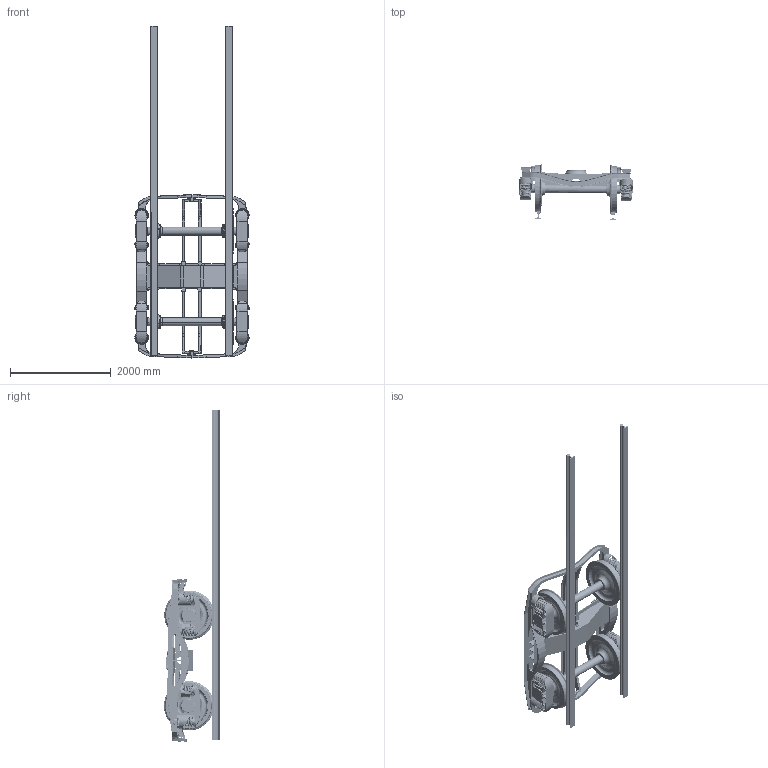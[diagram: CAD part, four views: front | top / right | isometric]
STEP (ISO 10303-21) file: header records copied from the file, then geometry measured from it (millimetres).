
FILE_DESCRIPTION (( 'STEP AP203' ), '1' );
FILE_NAME ('Z³o¿enie1.STEP', '2013-02-03T15:32:17', ( 'Grzegorz' ), ( '' ), 'SwSTEP 2.0', 'SolidWorks 2013', '' );
FILE_SCHEMA (( 'CONFIG_CONTROL_DESIGN' ));
Length unit declared in the file: millimetre
Products named in the file (51): Pod³u¿nica œrodkowa 1-1; Zamkniêcie2-1; Pas górny-1; T³oczek-1; Ko這 monoblokowe Fi920-1; MaŸnica1-1; Blacha-1; Pas górny belki skrêtowej-1; Ostojnica prawa-1; œlizg boczny-1; Zestaw ko³owy monoblokowy Fi920-1; szklanka-1; s³upek2-1; Wzmocnienie-1; Pas dolny-1; Gniazdo skrêtu-1; Korpus górny slizgu-1; Sprê¿yna zewnêtrzna-1; P³ytka-1; 宺骴nik-1; 宺骴nik lewy-1; Wk³adka-1; Œlizg-1; Sprê¿yna wewnêtrzna-1; s³upek-1; Rozpórka-1; Ostojnica lewa-1; Gniazdo skrêtu kpl-1; Wk³adka œlizgu-1; MaŸnica kpl-1; wspornik3-1; Przelotka-1; Czo³ownica-1; Wózek Y25; Szyna Kolejowa S49; Korpus dolny slizgu-1; Usprê¿ynowanie-1; Blacha3-1; wspornik-1; Pas dolny belki skrêtowej-1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
Assembly tree (87 placements, depth 5):
  Z這瞠nie1
    Szyna Kolejowa S49  x2
    Wózek Y25
      Ostojnica prawa-1
        Pas dolny prawy-1
        宺骴nik prawy-1
        Pas górny-1
      Ostojnica lewa-1
        Pas dolny-1
        宺骴nik lewy-1
        Pas górny-1
      Czo³ownica-1  x2
      Pas dolny belki skrêtowej-1
      Zamkniêcie-1  x2
      Zamkniêcie2-1  x2
      Pas górny belki skrêtowej-1
      Wzmocnienie-1  x2
      宺骴nik-1  x2
      Rozpórka-1  x2
      Przelotka-1  x2
      wspornik-1  x4
      Pod³u¿nica œrodkowa 2-1  x2
      Pod³u¿nica œrodkowa 1-1  x2
      Blacha-1  x2
      s³upek2-1  x4
      P³ytka-1  x4
      s³upek-1  x2
      wspornik3-1  x2
      Blacha3-1  x2
      Usprê¿ynowanie-1  x2
        Korpus prowadnicy-1
        MaŸnica kpl-1
          MaŸnica_1-1
          MaŸnica1-1
          szklanka-1  x2
          Sprê¿yna zewnêtrzna-1  x2
          Sprê¿yna wewnêtrzna-1  x2
      Usprê¿ynowanie II-1  x2
        Korpus prowadnicy-1
        MaŸnica kpl-1
          MaŸnica_1-1
          MaŸnica1-1
          szklanka-1  x2
          Sprê¿yna zewnêtrzna-1  x2
          Sprê¿yna wewnêtrzna-1  x2
      Zestaw ko³owy monoblokowy Fi920-1  x2
        Oœ zestawu ko³owego-1
        Ko這 monoblokowe Fi920-1
      œlizg boczny-1  x2
        Korpus górny slizgu-1
        Œlizg-1
        Wk³adka œlizgu-1
        Korpus dolny slizgu-1
        減r昕yna slizgu-1
        Bolec-1
        T³oczek-1
      Gniazdo skrêtu kpl-1
        Gniazdo skrêtu-1
        Wk³adka-1
Bounding box: 2276.99 x 1114.25 x 6590.22 mm (x, y, z)
Volume: 600849629.2 mm3; surface area: 51336982.1 mm2
Topology: 114 solids, 114 shells, 3868 faces, 9873 edges, 6304 vertices
Faces by surface type: plane 1763, cylinder 1367, cone 306, bspline 242, torus 190
Entity records: 85173 total; most frequent: CARTESIAN_POINT 42729, DIRECTION 7663, ORIENTED_EDGE 7464, EDGE_CURVE 3732, AXIS2_PLACEMENT_3D 2734, VERTEX_POINT 2389, VECTOR 2195, LINE 2195
